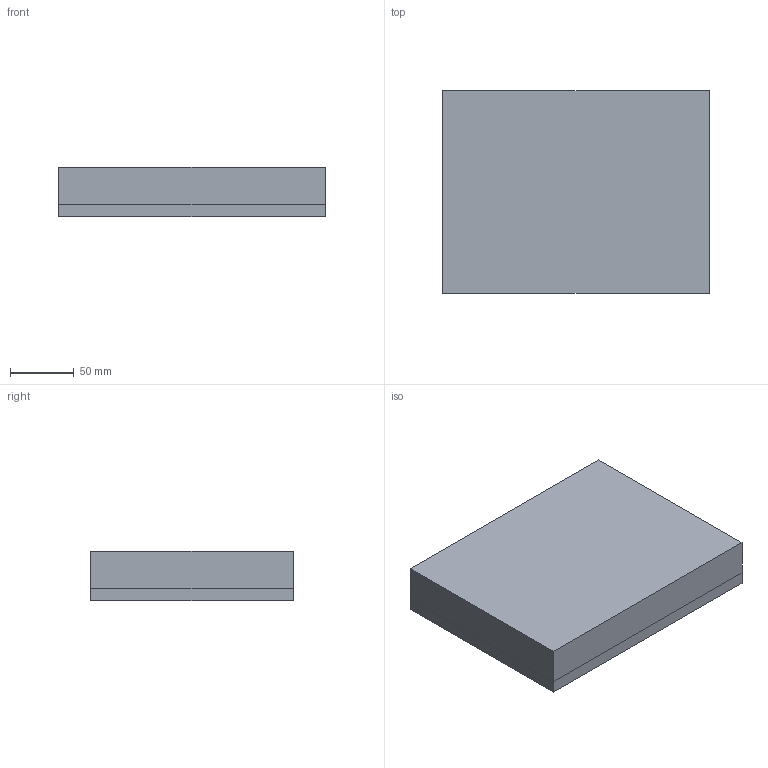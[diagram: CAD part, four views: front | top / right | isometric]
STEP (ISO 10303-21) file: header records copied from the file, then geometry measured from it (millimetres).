
FILE_DESCRIPTION(('CATIA V5 STEP Exchange'),'2;1');
FILE_NAME('C:\_Andres\UNIVERSIDAD\IQS\ASIGNATURAS\DAO\Controles\1920\c2\c2-Fibla_Campmany_Julia.stp','2020-02-10T15:38:03+00:00',('none'),('none'),'CATIA Version 5 Release 19 SP 3 (IN-10)','CATIA V5 STEP AP203','none');
FILE_SCHEMA(('CONFIG_CONTROL_DESIGN'));
Length unit declared in the file: millimetre
Products named in the file (1): c2-Fibla_Campmany_Julia
Bounding box: 209 x 159 x 39 mm (x, y, z)
Surface area: 236205.7 mm2
Topology: 3 solids, 3 shells, 103 faces, 232 edges, 128 vertices
Faces by surface type: cylinder 40, plane 27, bspline 24, sphere 12
Entity records: 3348 total; most frequent: CARTESIAN_POINT 1636, ORIENTED_EDGE 440, DIRECTION 224, EDGE_CURVE 164, EDGE_LOOP 110, ADVANCED_FACE 103, FACE_OUTER_BOUND 103, AXIS2_PLACEMENT_3D 96
